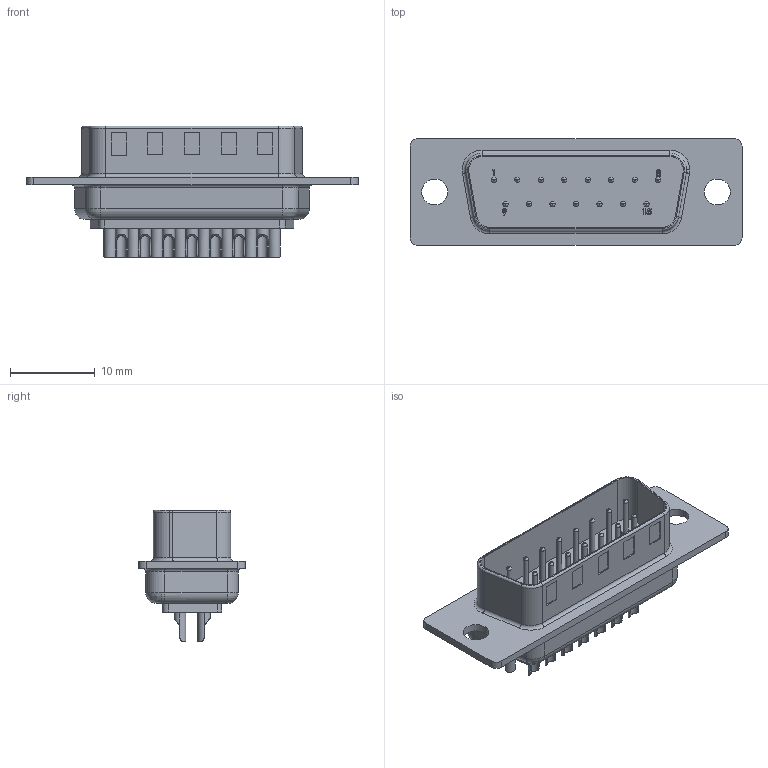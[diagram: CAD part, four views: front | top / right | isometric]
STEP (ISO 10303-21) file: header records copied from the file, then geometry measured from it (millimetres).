
FILE_DESCRIPTION(('FreeCAD Model'),'2;1');
FILE_NAME('C:/Users/Metaltex-99/Desktop/DBSM-15.stp', '2020-12-23T08:12:09',('Engenharia Metaltex'),('Metaltex'), 'Open CASCADE STEP processor 7.3','FreeCAD','Unknown');
FILE_SCHEMA(('AUTOMOTIVE_DESIGN { 1 0 10303 214 1 1 1 1 }'));
Products named in the file (1): DBSM-09
Bounding box: 39.15 x 12.6 x 15.52 mm (x, y, z)
Volume: 1909.2 mm3; surface area: 2691.8 mm2
Topology: 1 solids, 1 shells, 553 faces, 1325 edges, 842 vertices
Faces by surface type: plane 234, cylinder 205, bspline 64, revolution 35, torus 15
Entity records: 44474 total; most frequent: CARTESIAN_POINT 18805, DIRECTION 4383, ORIENTED_EDGE 2650, PCURVE 2650, DEFINITIONAL_REPRESENTATION 2650, LINE 2565, VECTOR 2565, EDGE_CURVE 1325
